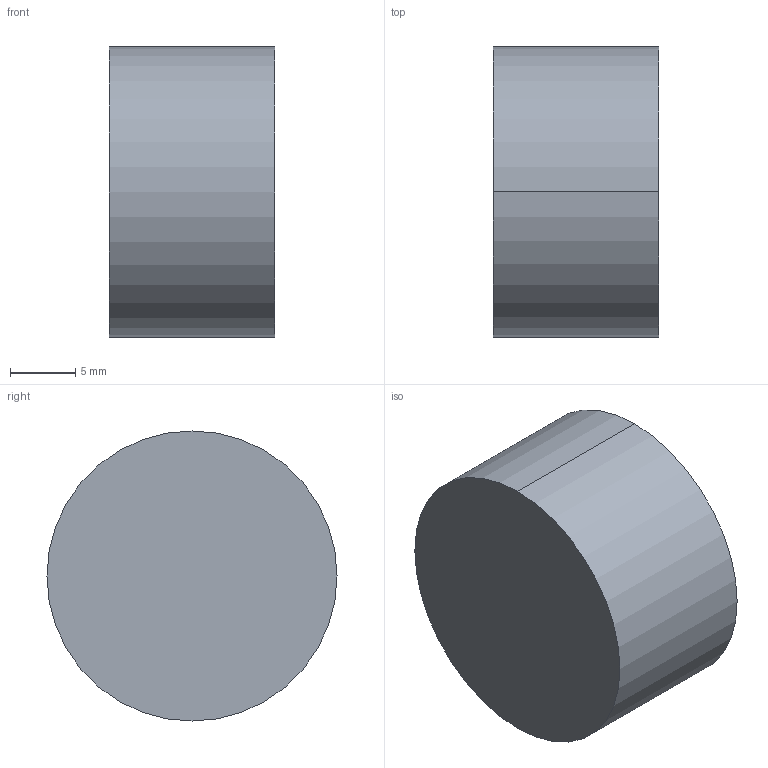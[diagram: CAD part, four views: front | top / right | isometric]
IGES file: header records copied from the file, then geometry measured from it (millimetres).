
Start section: SolidWorks IGES file using analytic representation for surfaces
Global section: file name: S:\Product Visuals\front-out-plug\30l-front-out-plug.IGS; native system: SolidWorks 2012; preprocessor: SolidWorks 2012; author: Rachel.Dressel; date: 121129.085905; units: inch
Bounding box: 12.7 x 22.23 x 22.23 mm (x, y, z)
Volume: 4716.1 mm3; surface area: 1922.1 mm2
Topology: 1 solids, 1 shells, 16 faces, 30 edges, 20 vertices
Faces by surface type: revolution 10, plane 6
